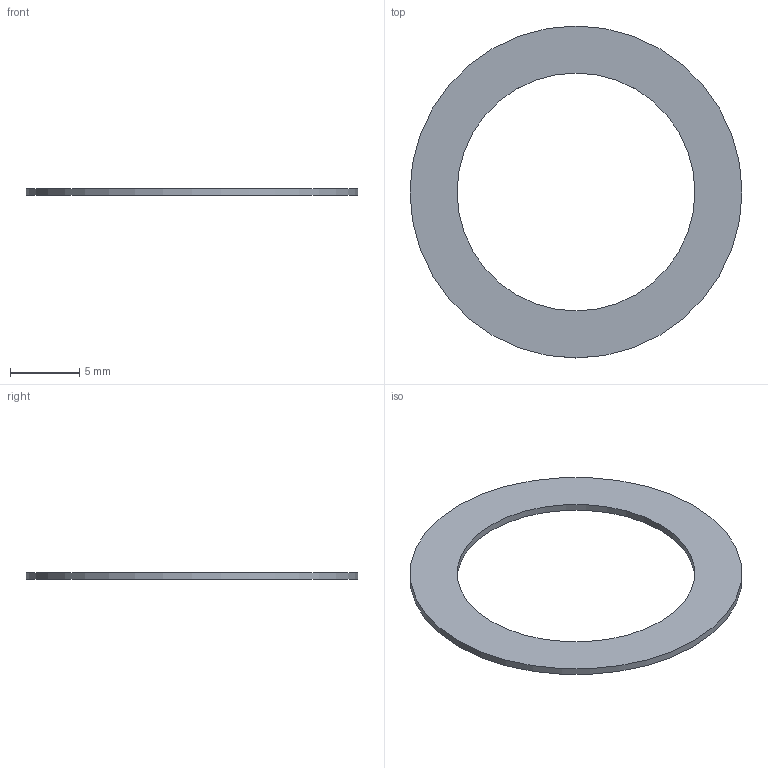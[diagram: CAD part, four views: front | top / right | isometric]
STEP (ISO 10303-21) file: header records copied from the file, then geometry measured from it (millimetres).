
FILE_DESCRIPTION(('FreeCAD Model'),'2;1');
FILE_NAME('Open CASCADE Shape Model','2026-09-19T18:57:27',('FreeCAD'),( 'FreeCAD'),'Open CASCADE STEP processor 7.8','FreeCAD','Unknown');
FILE_SCHEMA(('AUTOMOTIVE_DESIGN { 1 0 10303 214 1 1 1 1 }'));
Length unit declared in the file: millimetre
Products named in the file (1): Open CASCADE STEP translator 7.8 12
Bounding box: 24 x 24 x 0.5 mm (x, y, z)
Volume: 110.3 mm3; surface area: 505 mm2
Topology: 1 solids, 1 shells, 4 faces, 6 edges, 4 vertices
Faces by surface type: cylinder 2, plane 2
Full cylindrical faces by diameter (mm): 17.2 x1, 24 x1
Entity records: 108 total; most frequent: DIRECTION 20, CARTESIAN_POINT 15, ORIENTED_EDGE 12, AXIS2_PLACEMENT_3D 9, FACE_BOUND 6, EDGE_LOOP 6, EDGE_CURVE 6, ADVANCED_FACE 4
